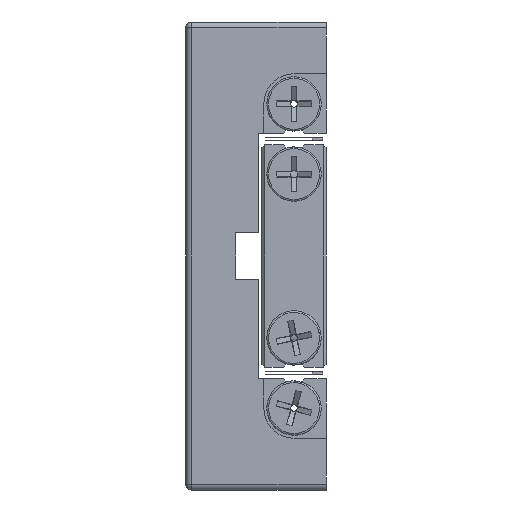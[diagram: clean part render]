
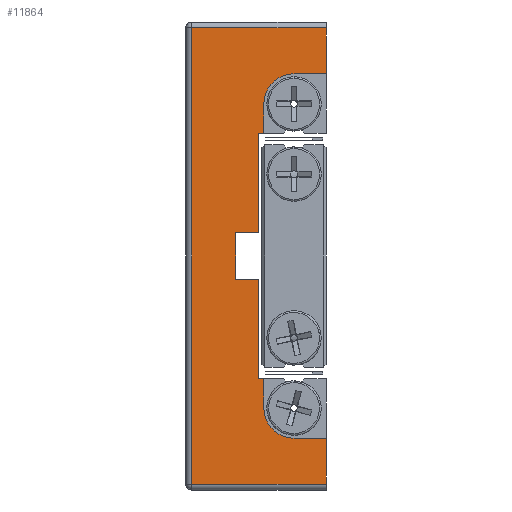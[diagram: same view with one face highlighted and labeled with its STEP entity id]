
A CAD part, left-side view. The second image highlights one B-rep face of the part: STEP entity #11864.
In plain terms, the highlighted planar face has unit normal (-1, 0, 0).
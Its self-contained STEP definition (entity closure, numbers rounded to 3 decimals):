
#130 = VERTEX_POINT ( 'NONE', #6866 ) ;
#250 = ORIENTED_EDGE ( 'NONE', *, *, #23457, .F. ) ;
#257 = EDGE_CURVE ( 'NONE', #130, #9471, #11635, .T. ) ;
#282 = VECTOR ( 'NONE', #5312, 1000. ) ;
#296 = EDGE_LOOP ( 'NONE', ( #9916, #14472, #10662, #682, #5111, #250, #7102, #12118, #20707, #9538, #9937, #5881, #18337, #22342, #5623, #6145, #17697, #3240 ) ) ;
#489 = CARTESIAN_POINT ( 'NONE',  ( -114.518, -4.163, -21. ) ) ;
#628 = EDGE_CURVE ( 'NONE', #7173, #26149, #18860, .T. ) ;
#682 = ORIENTED_EDGE ( 'NONE', *, *, #3969, .F. ) ;
#817 = VECTOR ( 'NONE', #17868, 1000. ) ;
#1080 = VERTEX_POINT ( 'NONE', #22405 ) ;
#1126 = VECTOR ( 'NONE', #1174, 1000. ) ;
#1174 = DIRECTION ( 'NONE',  ( 0., 0., -1. ) ) ;
#1265 = CARTESIAN_POINT ( 'NONE',  ( -114.518, -15.663, -21. ) ) ;
#1290 = VECTOR ( 'NONE', #19539, 1000. ) ;
#1853 = CARTESIAN_POINT ( 'NONE',  ( -114.518, -4.163, -21. ) ) ;
#2232 = LINE ( 'NONE', #1853, #23242 ) ;
#3240 = ORIENTED_EDGE ( 'NONE', *, *, #23419, .T. ) ;
#3598 = DIRECTION ( 'NONE',  ( 0., 0., -1. ) ) ;
#3661 = VERTEX_POINT ( 'NONE', #489 ) ;
#3701 = VERTEX_POINT ( 'NONE', #17498 ) ;
#3932 = DIRECTION ( 'NONE',  ( 0., 1., 0. ) ) ;
#3969 = EDGE_CURVE ( 'NONE', #7857, #5212, #11592, .T. ) ;
#4057 = VECTOR ( 'NONE', #13027, 1000. ) ;
#4095 = VERTEX_POINT ( 'NONE', #9965 ) ;
#4388 = CARTESIAN_POINT ( 'NONE',  ( -114.518, -10.163, 26. ) ) ;
#4729 = VECTOR ( 'NONE', #11507, 1000. ) ;
#4765 = LINE ( 'NONE', #18100, #15522 ) ;
#4801 = CARTESIAN_POINT ( 'NONE',  ( -114.518, -4.163, -4. ) ) ;
#4802 = DIRECTION ( 'NONE',  ( 0., 0., 1. ) ) ;
#5073 = DIRECTION ( 'NONE',  ( -1., 0., 0. ) ) ;
#5111 = ORIENTED_EDGE ( 'NONE', *, *, #8361, .F. ) ;
#5134 = LINE ( 'NONE', #16529, #25435 ) ;
#5212 = VERTEX_POINT ( 'NONE', #17383 ) ;
#5312 = DIRECTION ( 'NONE',  ( 0., -1., 0. ) ) ;
#5623 = ORIENTED_EDGE ( 'NONE', *, *, #22580, .F. ) ;
#5881 = ORIENTED_EDGE ( 'NONE', *, *, #12510, .F. ) ;
#6145 = ORIENTED_EDGE ( 'NONE', *, *, #257, .F. ) ;
#6146 = VECTOR ( 'NONE', #15605, 1000. ) ;
#6436 = DIRECTION ( 'NONE',  ( 0., 0., -1. ) ) ;
#6801 = EDGE_CURVE ( 'NONE', #3701, #19153, #4765, .T. ) ;
#6866 = CARTESIAN_POINT ( 'NONE',  ( -114.518, -15.663, 31.15 ) ) ;
#7102 = ORIENTED_EDGE ( 'NONE', *, *, #13314, .F. ) ;
#7173 = VERTEX_POINT ( 'NONE', #21733 ) ;
#7603 = EDGE_CURVE ( 'NONE', #130, #21103, #12076, .T. ) ;
#7631 = CIRCLE ( 'NONE', #23362, 5.15 ) ;
#7857 = VERTEX_POINT ( 'NONE', #20573 ) ;
#7868 = CARTESIAN_POINT ( 'NONE',  ( -114.518, 7.337, -39. ) ) ;
#8013 = DIRECTION ( 'NONE',  ( 0., 0., -1. ) ) ;
#8361 = EDGE_CURVE ( 'NONE', #8823, #7857, #7631, .T. ) ;
#8572 = CARTESIAN_POINT ( 'NONE',  ( -114.518, -4.163, -4. ) ) ;
#8793 = EDGE_CURVE ( 'NONE', #11913, #3701, #26302, .T. ) ;
#8823 = VERTEX_POINT ( 'NONE', #9066 ) ;
#9066 = CARTESIAN_POINT ( 'NONE',  ( -114.518, -5.013, -26. ) ) ;
#9249 = VECTOR ( 'NONE', #4802, 1000. ) ;
#9471 = VERTEX_POINT ( 'NONE', #21901 ) ;
#9538 = ORIENTED_EDGE ( 'NONE', *, *, #11884, .F. ) ;
#9546 = CARTESIAN_POINT ( 'NONE',  ( -114.518, -10.163, -31.15 ) ) ;
#9623 = CIRCLE ( 'NONE', #12104, 5.15 ) ;
#9733 = EDGE_CURVE ( 'NONE', #1080, #21547, #11983, .T. ) ;
#9916 = ORIENTED_EDGE ( 'NONE', *, *, #15946, .T. ) ;
#9937 = ORIENTED_EDGE ( 'NONE', *, *, #628, .F. ) ;
#9965 = CARTESIAN_POINT ( 'NONE',  ( -114.518, -15.663, -39. ) ) ;
#10537 = LINE ( 'NONE', #18604, #20684 ) ;
#10662 = ORIENTED_EDGE ( 'NONE', *, *, #23991, .T. ) ;
#11018 = CARTESIAN_POINT ( 'NONE',  ( -114.518, -5.013, 26. ) ) ;
#11095 = CARTESIAN_POINT ( 'NONE',  ( -114.518, 7.337, 39. ) ) ;
#11317 = CARTESIAN_POINT ( 'NONE',  ( -114.518, 7.337, -40. ) ) ;
#11374 = VECTOR ( 'NONE', #20884, 1000. ) ;
#11507 = DIRECTION ( 'NONE',  ( 0., -1., 0. ) ) ;
#11548 = CARTESIAN_POINT ( 'NONE',  ( -114.518, -0.163, 4. ) ) ;
#11592 = LINE ( 'NONE', #9546, #6146 ) ;
#11635 = LINE ( 'NONE', #17142, #817 ) ;
#11864 = ADVANCED_FACE ( 'NONE', ( #12427 ), #25887, .F. ) ;
#11884 = EDGE_CURVE ( 'NONE', #26149, #1080, #15861, .T. ) ;
#11913 = VERTEX_POINT ( 'NONE', #15797 ) ;
#11920 = DIRECTION ( 'NONE',  ( 0., 1., 0. ) ) ;
#11924 = LINE ( 'NONE', #11317, #1126 ) ;
#11983 = LINE ( 'NONE', #4801, #11374 ) ;
#12076 = LINE ( 'NONE', #17446, #1290 ) ;
#12104 = AXIS2_PLACEMENT_3D ( 'NONE', #4388, #18570, #6436 ) ;
#12118 = ORIENTED_EDGE ( 'NONE', *, *, #23291, .F. ) ;
#12279 = CARTESIAN_POINT ( 'NONE',  ( -114.518, -15.663, 39. ) ) ;
#12427 = FACE_OUTER_BOUND ( 'NONE', #296, .T. ) ;
#12510 = EDGE_CURVE ( 'NONE', #19153, #7173, #19383, .T. ) ;
#13027 = DIRECTION ( 'NONE',  ( 0., 0., -1. ) ) ;
#13314 = EDGE_CURVE ( 'NONE', #3661, #23367, #20944, .T. ) ;
#13694 = CARTESIAN_POINT ( 'NONE',  ( -114.518, 8.337, -40. ) ) ;
#14107 = EDGE_CURVE ( 'NONE', #26067, #4095, #22497, .T. ) ;
#14156 = CARTESIAN_POINT ( 'NONE',  ( -114.518, -5.013, -21. ) ) ;
#14284 = CARTESIAN_POINT ( 'NONE',  ( -114.518, -0.163, 4. ) ) ;
#14456 = CARTESIAN_POINT ( 'NONE',  ( -114.518, -4.163, 4. ) ) ;
#14472 = ORIENTED_EDGE ( 'NONE', *, *, #14107, .T. ) ;
#15375 = CARTESIAN_POINT ( 'NONE',  ( -114.518, 8.337, -39. ) ) ;
#15522 = VECTOR ( 'NONE', #3932, 1000. ) ;
#15605 = DIRECTION ( 'NONE',  ( 0., -1., 0. ) ) ;
#15715 = DIRECTION ( 'NONE',  ( 1., 0., 0. ) ) ;
#15797 = CARTESIAN_POINT ( 'NONE',  ( -114.518, -5.013, 26. ) ) ;
#15861 = LINE ( 'NONE', #21929, #21351 ) ;
#15946 = EDGE_CURVE ( 'NONE', #18517, #26067, #11924, .T. ) ;
#16506 = AXIS2_PLACEMENT_3D ( 'NONE', #13694, #15715, #3598 ) ;
#16529 = CARTESIAN_POINT ( 'NONE',  ( -114.518, -5.013, -26. ) ) ;
#16719 = DIRECTION ( 'NONE',  ( 0., 0., -1. ) ) ;
#17142 = CARTESIAN_POINT ( 'NONE',  ( -114.518, -10.163, 31.15 ) ) ;
#17172 = CARTESIAN_POINT ( 'NONE',  ( -114.518, -10.163, -26. ) ) ;
#17383 = CARTESIAN_POINT ( 'NONE',  ( -114.518, -15.663, -31.15 ) ) ;
#17446 = CARTESIAN_POINT ( 'NONE',  ( -114.518, -15.663, -40. ) ) ;
#17498 = CARTESIAN_POINT ( 'NONE',  ( -114.518, -5.013, 21. ) ) ;
#17697 = ORIENTED_EDGE ( 'NONE', *, *, #7603, .T. ) ;
#17868 = DIRECTION ( 'NONE',  ( 0., 1., 0. ) ) ;
#18100 = CARTESIAN_POINT ( 'NONE',  ( -114.518, -4.163, 21. ) ) ;
#18337 = ORIENTED_EDGE ( 'NONE', *, *, #6801, .F. ) ;
#18517 = VERTEX_POINT ( 'NONE', #11095 ) ;
#18570 = DIRECTION ( 'NONE',  ( -1., 0., 0. ) ) ;
#18604 = CARTESIAN_POINT ( 'NONE',  ( -114.518, 8.337, 39. ) ) ;
#18860 = LINE ( 'NONE', #11548, #23675 ) ;
#18974 = CARTESIAN_POINT ( 'NONE',  ( -114.518, -15.663, -40. ) ) ;
#19153 = VERTEX_POINT ( 'NONE', #20385 ) ;
#19252 = DIRECTION ( 'NONE',  ( 0., 0., 1. ) ) ;
#19383 = LINE ( 'NONE', #14456, #24761 ) ;
#19539 = DIRECTION ( 'NONE',  ( 0., 0., 1. ) ) ;
#19864 = DIRECTION ( 'NONE',  ( 0., 0., -1. ) ) ;
#20385 = CARTESIAN_POINT ( 'NONE',  ( -114.518, -4.163, 21. ) ) ;
#20573 = CARTESIAN_POINT ( 'NONE',  ( -114.518, -10.163, -31.15 ) ) ;
#20684 = VECTOR ( 'NONE', #20687, 1000. ) ;
#20687 = DIRECTION ( 'NONE',  ( 0., 1., 0. ) ) ;
#20707 = ORIENTED_EDGE ( 'NONE', *, *, #9733, .F. ) ;
#20884 = DIRECTION ( 'NONE',  ( 0., -1., 0. ) ) ;
#20944 = LINE ( 'NONE', #1265, #4729 ) ;
#21103 = VERTEX_POINT ( 'NONE', #12279 ) ;
#21351 = VECTOR ( 'NONE', #19864, 1000. ) ;
#21547 = VERTEX_POINT ( 'NONE', #8572 ) ;
#21733 = CARTESIAN_POINT ( 'NONE',  ( -114.518, -4.163, 4. ) ) ;
#21901 = CARTESIAN_POINT ( 'NONE',  ( -114.518, -10.163, 31.15 ) ) ;
#21929 = CARTESIAN_POINT ( 'NONE',  ( -114.518, -0.163, -4. ) ) ;
#22342 = ORIENTED_EDGE ( 'NONE', *, *, #8793, .F. ) ;
#22405 = CARTESIAN_POINT ( 'NONE',  ( -114.518, -0.163, -4. ) ) ;
#22497 = LINE ( 'NONE', #15375, #282 ) ;
#22580 = EDGE_CURVE ( 'NONE', #9471, #11913, #9623, .T. ) ;
#23242 = VECTOR ( 'NONE', #8013, 1000. ) ;
#23291 = EDGE_CURVE ( 'NONE', #21547, #3661, #2232, .T. ) ;
#23362 = AXIS2_PLACEMENT_3D ( 'NONE', #17172, #5073, #19252 ) ;
#23367 = VERTEX_POINT ( 'NONE', #14156 ) ;
#23419 = EDGE_CURVE ( 'NONE', #21103, #18517, #10537, .T. ) ;
#23457 = EDGE_CURVE ( 'NONE', #23367, #8823, #5134, .T. ) ;
#23675 = VECTOR ( 'NONE', #11920, 1000. ) ;
#23991 = EDGE_CURVE ( 'NONE', #4095, #5212, #25409, .T. ) ;
#24593 = DIRECTION ( 'NONE',  ( 0., 0., -1. ) ) ;
#24761 = VECTOR ( 'NONE', #24593, 1000. ) ;
#25409 = LINE ( 'NONE', #18974, #9249 ) ;
#25435 = VECTOR ( 'NONE', #16719, 1000. ) ;
#25887 = PLANE ( 'NONE',  #16506 ) ;
#26067 = VERTEX_POINT ( 'NONE', #7868 ) ;
#26149 = VERTEX_POINT ( 'NONE', #14284 ) ;
#26302 = LINE ( 'NONE', #11018, #4057 ) ;
